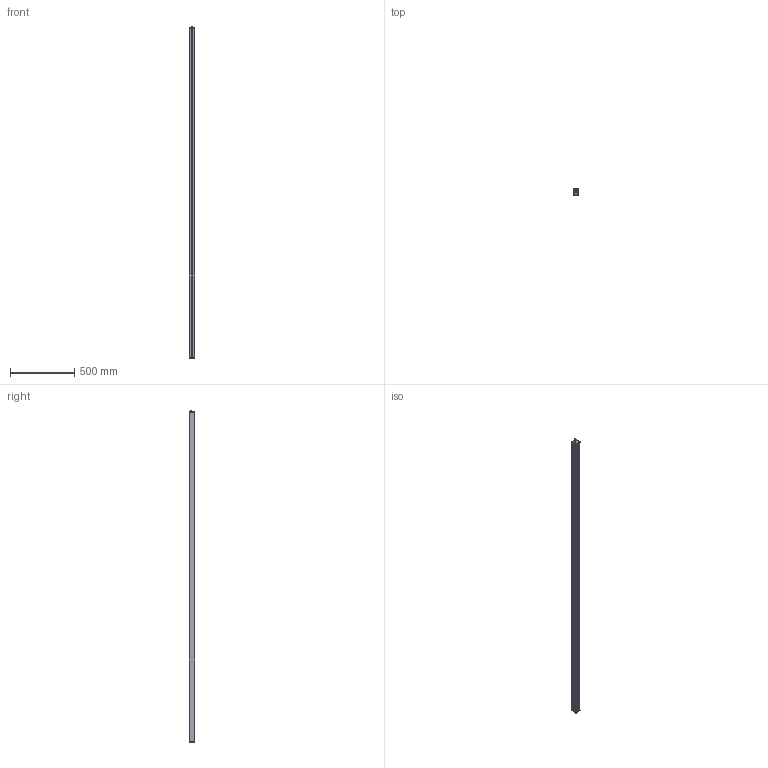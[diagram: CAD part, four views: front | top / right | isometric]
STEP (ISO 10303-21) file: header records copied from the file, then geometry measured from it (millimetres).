
FILE_DESCRIPTION (( 'STEP AP214' ), '1' );
FILE_NAME ('NBAR102.STEP', '2012-01-14T10:17:02', ( 'JRLEDS' ), ( '' ), 'SwSTEP 2.0', 'SolidWorks 2010', '' );
FILE_SCHEMA (( 'AUTOMOTIVE_DESIGN' ));
Length unit declared in the file: millimetre
Products named in the file (8): Embout ALU; PROT-NBAR102; screw_din_912-m5x0_8-10-8_8_Default; Embout percé ALU; SW3DPS-FISCHER_DBP_103_Z053-130-DEFAULT; CIR6LED; NBAR102; PROF-NBAR102
Assembly tree (26 placements, depth 2):
  NBAR102
    screw_din_912-m5x0_8-10-8_8_Default  x4
    CIR6LED  x17
    SW3DPS-FISCHER_DBP_103_Z053-130-DEFAULT
    Embout percé ALU
    PROF-NBAR102
    Embout ALU
    PROT-NBAR102
Bounding box: 45.1 x 45 x 2580 mm (x, y, z)
Volume: 1663438.1 mm3; surface area: 1601112.4 mm2
Topology: 128 solids, 128 shells, 1023 faces, 2182 edges, 1414 vertices
Faces by surface type: plane 690, cylinder 295, cone 16, torus 14, sphere 8
Entity records: 9196 total; most frequent: DIRECTION 1328, CARTESIAN_POINT 1290, ORIENTED_EDGE 1180, EDGE_CURVE 590, AXIS2_PLACEMENT_3D 469, LINE 390, VECTOR 390, VERTEX_POINT 379
